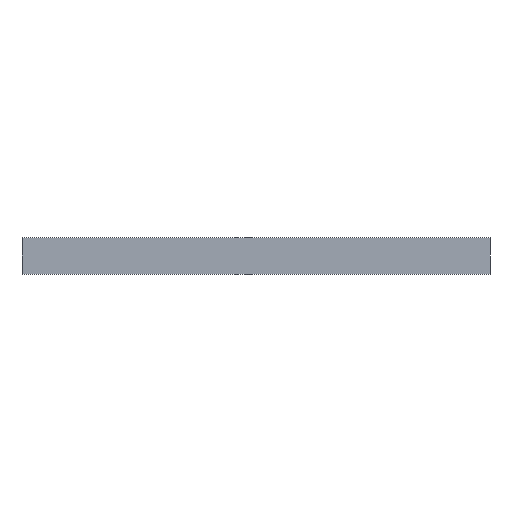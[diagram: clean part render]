
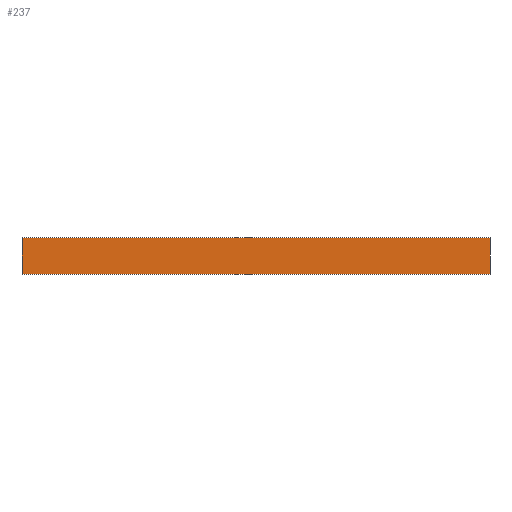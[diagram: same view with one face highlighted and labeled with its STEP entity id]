
A CAD part, front view. The second image highlights one B-rep face of the part: STEP entity #237.
In plain terms, the highlighted planar face has unit normal (0, -1, 0).
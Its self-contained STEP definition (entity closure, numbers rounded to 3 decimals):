
#21 = EDGE_CURVE('',#22,#24,#26,.T.);
#22 = VERTEX_POINT('',#23);
#23 = CARTESIAN_POINT('',(1745.,-1715.,2388.));
#24 = VERTEX_POINT('',#25);
#25 = CARTESIAN_POINT('',(1745.,-1715.,2400.));
#26 = SURFACE_CURVE('',#27,(#31,#43),.PCURVE_S1.);
#27 = LINE('',#28,#29);
#28 = CARTESIAN_POINT('',(1745.,-1715.,2388.));
#29 = VECTOR('',#30,1.);
#30 = DIRECTION('',(0.,0.,1.));
#31 = PCURVE('',#32,#37);
#32 = PLANE('',#33);
#33 = AXIS2_PLACEMENT_3D('',#34,#35,#36);
#34 = CARTESIAN_POINT('',(1745.,-1715.,2388.));
#35 = DIRECTION('',(1.,0.,-0.));
#36 = DIRECTION('',(0.,0.,1.));
#37 = DEFINITIONAL_REPRESENTATION('',(#38),#42);
#38 = LINE('',#39,#40);
#39 = CARTESIAN_POINT('',(0.,0.));
#40 = VECTOR('',#41,1.);
#41 = DIRECTION('',(1.,0.));
#42 = ( GEOMETRIC_REPRESENTATION_CONTEXT(2) 
PARAMETRIC_REPRESENTATION_CONTEXT() REPRESENTATION_CONTEXT('2D SPACE',''
  ) );
#43 = PCURVE('',#44,#49);
#44 = PLANE('',#45);
#45 = AXIS2_PLACEMENT_3D('',#46,#47,#48);
#46 = CARTESIAN_POINT('',(1745.,-1715.,2388.));
#47 = DIRECTION('',(-0.,1.,0.));
#48 = DIRECTION('',(0.,0.,1.));
#49 = DEFINITIONAL_REPRESENTATION('',(#50),#54);
#50 = LINE('',#51,#52);
#51 = CARTESIAN_POINT('',(0.,0.));
#52 = VECTOR('',#53,1.);
#53 = DIRECTION('',(1.,0.));
#54 = ( GEOMETRIC_REPRESENTATION_CONTEXT(2) 
PARAMETRIC_REPRESENTATION_CONTEXT() REPRESENTATION_CONTEXT('2D SPACE',''
  ) );
#72 = PLANE('',#73);
#73 = AXIS2_PLACEMENT_3D('',#74,#75,#76);
#74 = CARTESIAN_POINT('',(1745.,-1715.,2388.));
#75 = DIRECTION('',(0.,0.,1.));
#76 = DIRECTION('',(1.,0.,-0.));
#126 = PLANE('',#127);
#127 = AXIS2_PLACEMENT_3D('',#128,#129,#130);
#128 = CARTESIAN_POINT('',(1745.,-1715.,2400.));
#129 = DIRECTION('',(0.,0.,1.));
#130 = DIRECTION('',(1.,0.,-0.));
#141 = EDGE_CURVE('',#142,#144,#146,.T.);
#142 = VERTEX_POINT('',#143);
#143 = CARTESIAN_POINT('',(1899.,-1715.,2388.));
#144 = VERTEX_POINT('',#145);
#145 = CARTESIAN_POINT('',(1899.,-1715.,2400.));
#146 = SURFACE_CURVE('',#147,(#151,#163),.PCURVE_S1.);
#147 = LINE('',#148,#149);
#148 = CARTESIAN_POINT('',(1899.,-1715.,2388.));
#149 = VECTOR('',#150,1.);
#150 = DIRECTION('',(0.,0.,1.));
#151 = PCURVE('',#152,#157);
#152 = PLANE('',#153);
#153 = AXIS2_PLACEMENT_3D('',#154,#155,#156);
#154 = CARTESIAN_POINT('',(1899.,-1715.,2388.));
#155 = DIRECTION('',(1.,0.,-0.));
#156 = DIRECTION('',(0.,0.,1.));
#157 = DEFINITIONAL_REPRESENTATION('',(#158),#162);
#158 = LINE('',#159,#160);
#159 = CARTESIAN_POINT('',(0.,0.));
#160 = VECTOR('',#161,1.);
#161 = DIRECTION('',(1.,0.));
#162 = ( GEOMETRIC_REPRESENTATION_CONTEXT(2) 
PARAMETRIC_REPRESENTATION_CONTEXT() REPRESENTATION_CONTEXT('2D SPACE',''
  ) );
#163 = PCURVE('',#44,#164);
#164 = DEFINITIONAL_REPRESENTATION('',(#165),#169);
#165 = LINE('',#166,#167);
#166 = CARTESIAN_POINT('',(0.,154.));
#167 = VECTOR('',#168,1.);
#168 = DIRECTION('',(1.,0.));
#169 = ( GEOMETRIC_REPRESENTATION_CONTEXT(2) 
PARAMETRIC_REPRESENTATION_CONTEXT() REPRESENTATION_CONTEXT('2D SPACE',''
  ) );
#237 = ADVANCED_FACE('',(#238),#44,.F.);
#238 = FACE_BOUND('',#239,.F.);
#239 = EDGE_LOOP('',(#240,#261,#262,#283));
#240 = ORIENTED_EDGE('',*,*,#241,.F.);
#241 = EDGE_CURVE('',#22,#142,#242,.T.);
#242 = SURFACE_CURVE('',#243,(#247,#254),.PCURVE_S1.);
#243 = LINE('',#244,#245);
#244 = CARTESIAN_POINT('',(1745.,-1715.,2388.));
#245 = VECTOR('',#246,1.);
#246 = DIRECTION('',(1.,0.,-0.));
#247 = PCURVE('',#44,#248);
#248 = DEFINITIONAL_REPRESENTATION('',(#249),#253);
#249 = LINE('',#250,#251);
#250 = CARTESIAN_POINT('',(0.,0.));
#251 = VECTOR('',#252,1.);
#252 = DIRECTION('',(0.,1.));
#253 = ( GEOMETRIC_REPRESENTATION_CONTEXT(2) 
PARAMETRIC_REPRESENTATION_CONTEXT() REPRESENTATION_CONTEXT('2D SPACE',''
  ) );
#254 = PCURVE('',#72,#255);
#255 = DEFINITIONAL_REPRESENTATION('',(#256),#260);
#256 = LINE('',#257,#258);
#257 = CARTESIAN_POINT('',(0.,0.));
#258 = VECTOR('',#259,1.);
#259 = DIRECTION('',(1.,0.));
#260 = ( GEOMETRIC_REPRESENTATION_CONTEXT(2) 
PARAMETRIC_REPRESENTATION_CONTEXT() REPRESENTATION_CONTEXT('2D SPACE',''
  ) );
#261 = ORIENTED_EDGE('',*,*,#21,.T.);
#262 = ORIENTED_EDGE('',*,*,#263,.T.);
#263 = EDGE_CURVE('',#24,#144,#264,.T.);
#264 = SURFACE_CURVE('',#265,(#269,#276),.PCURVE_S1.);
#265 = LINE('',#266,#267);
#266 = CARTESIAN_POINT('',(1745.,-1715.,2400.));
#267 = VECTOR('',#268,1.);
#268 = DIRECTION('',(1.,0.,-0.));
#269 = PCURVE('',#44,#270);
#270 = DEFINITIONAL_REPRESENTATION('',(#271),#275);
#271 = LINE('',#272,#273);
#272 = CARTESIAN_POINT('',(12.,0.));
#273 = VECTOR('',#274,1.);
#274 = DIRECTION('',(0.,1.));
#275 = ( GEOMETRIC_REPRESENTATION_CONTEXT(2) 
PARAMETRIC_REPRESENTATION_CONTEXT() REPRESENTATION_CONTEXT('2D SPACE',''
  ) );
#276 = PCURVE('',#126,#277);
#277 = DEFINITIONAL_REPRESENTATION('',(#278),#282);
#278 = LINE('',#279,#280);
#279 = CARTESIAN_POINT('',(0.,0.));
#280 = VECTOR('',#281,1.);
#281 = DIRECTION('',(1.,0.));
#282 = ( GEOMETRIC_REPRESENTATION_CONTEXT(2) 
PARAMETRIC_REPRESENTATION_CONTEXT() REPRESENTATION_CONTEXT('2D SPACE',''
  ) );
#283 = ORIENTED_EDGE('',*,*,#141,.F.);
